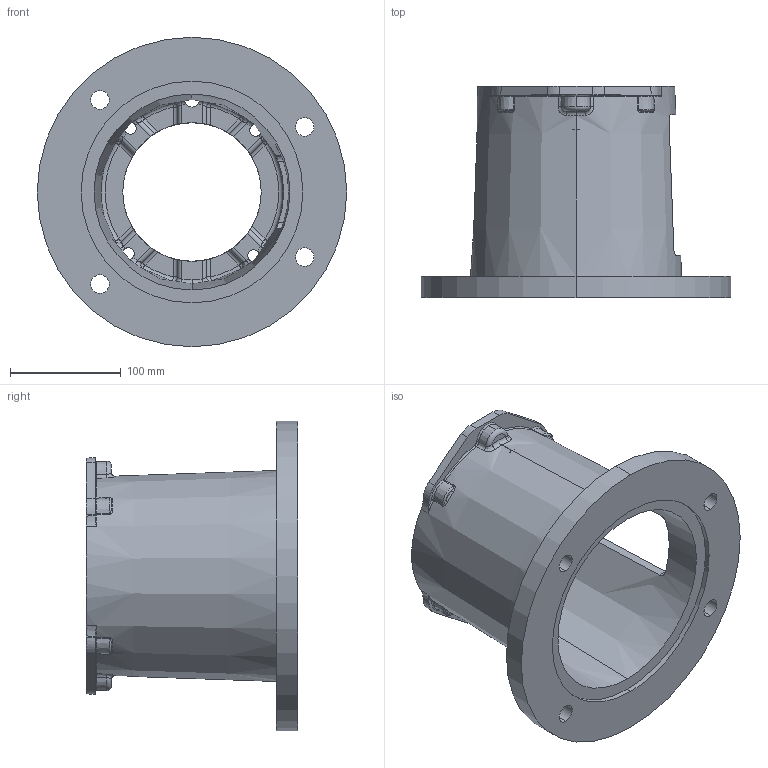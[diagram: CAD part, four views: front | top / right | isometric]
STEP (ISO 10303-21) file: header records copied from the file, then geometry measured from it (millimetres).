
FILE_DESCRIPTION (( 'STEP AP203' ), '1' );
FILE_NAME ('E78775125M.STEP', '2014-11-04T15:49:15', ( '' ), ( '' ), 'SwSTEP 2.0', 'SolidWorks 2014', '' );
FILE_SCHEMA (( 'CONFIG_CONTROL_DESIGN' ));
Length unit declared in the file: inch
Products named in the file (1): E78775125M
Bounding box: 279.4 x 190.5 x 279.4 mm (x, y, z)
Volume: 1437429.6 mm3; surface area: 311762.8 mm2
Topology: 1 solids, 1 shells, 322 faces, 867 edges, 525 vertices
Faces by surface type: cylinder 86, torus 76, bspline 64, plane 50, sphere 24, cone 22
Entity records: 14004 total; most frequent: CARTESIAN_POINT 6445, ORIENTED_EDGE 1702, DIRECTION 1489, EDGE_CURVE 851, AXIS2_PLACEMENT_3D 667, VERTEX_POINT 525, CIRCLE 408, EDGE_LOOP 342
